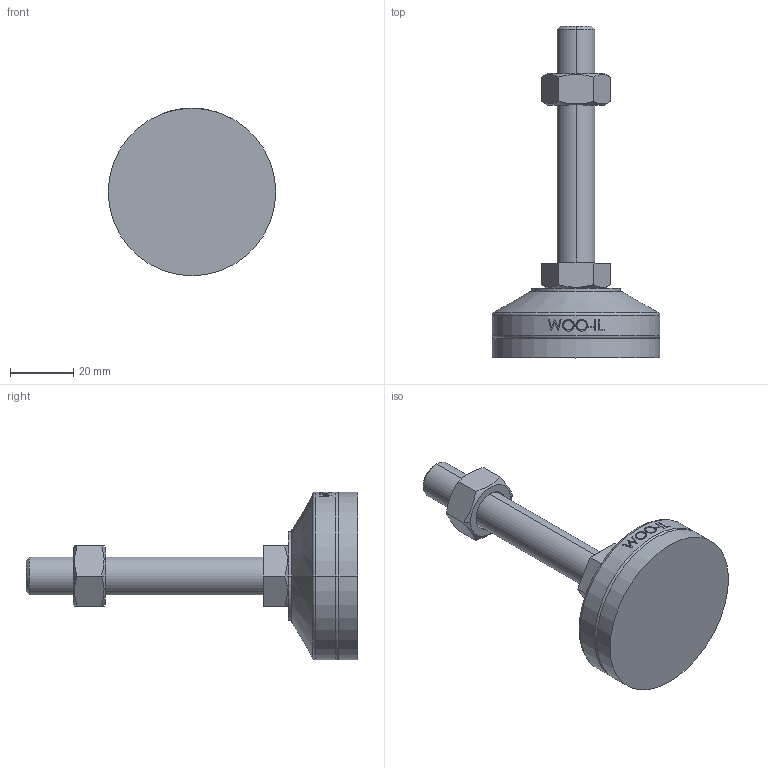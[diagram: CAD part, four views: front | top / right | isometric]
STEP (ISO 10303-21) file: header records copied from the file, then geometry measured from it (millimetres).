
FILE_DESCRIPTION (( 'STEP AP214' ), '1' );
FILE_NAME ('MFR53-M12-75.step', '2021-01-13T05:35:34', ( '' ), ( '' ), 'SwSTEP 2.0', 'SolidWorks 2019', '' );
FILE_SCHEMA (( 'AUTOMOTIVE_DESIGN' ));
Length unit declared in the file: millimetre
Products named in the file (2): MFR53-M12-75
Bounding box: 53 x 105 x 53 mm (x, y, z)
Volume: 53848.3 mm3; surface area: 16692.7 mm2
Topology: 4 solids, 4 shells, 103 faces, 235 edges, 150 vertices
Faces by surface type: plane 49, cylinder 18, bspline 16, cone 14, torus 6
Entity records: 4309 total; most frequent: CARTESIAN_POINT 2036, ORIENTED_EDGE 470, DIRECTION 417, EDGE_CURVE 235, AXIS2_PLACEMENT_3D 159, VERTEX_POINT 150, EDGE_LOOP 115, ADVANCED_FACE 103
